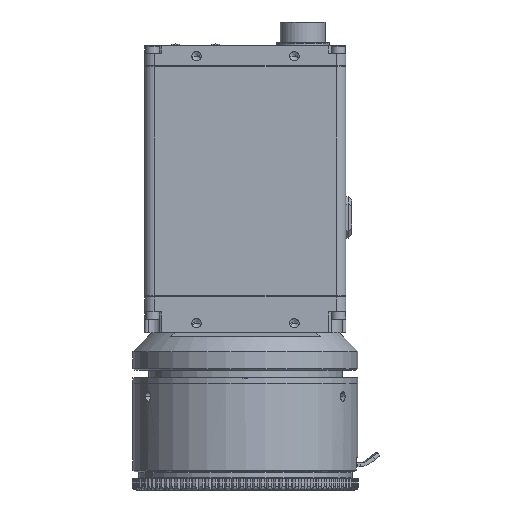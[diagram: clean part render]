
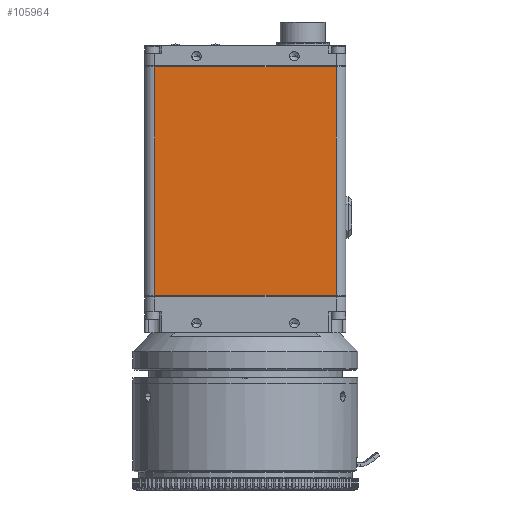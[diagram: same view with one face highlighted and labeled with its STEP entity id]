
A CAD part, front view. The second image highlights one B-rep face of the part: STEP entity #105964.
In plain terms, the highlighted planar face has unit normal (0, -1, 0) as drawn and (0, 1, 0) by its records, which use the part's own axes.
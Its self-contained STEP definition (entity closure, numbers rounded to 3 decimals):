
#4899 = LINE ( 'NONE', #33818, #129883 ) ;
#9814 = VERTEX_POINT ( 'NONE', #122484 ) ;
#9914 = ORIENTED_EDGE ( 'NONE', *, *, #55164, .F. ) ;
#19486 = LINE ( 'NONE', #111966, #146722 ) ;
#23652 = VECTOR ( 'NONE', #86618, 1000. ) ;
#29868 = AXIS2_PLACEMENT_3D ( 'NONE', #49028, #48681, #48652 ) ;
#33557 = DIRECTION ( 'NONE',  ( 0., 0., -1. ) ) ;
#33818 = CARTESIAN_POINT ( 'NONE',  ( -26.67, 16.51, 0.254 ) ) ;
#35845 = CARTESIAN_POINT ( 'NONE',  ( -24.13, 16.51, 61.214 ) ) ;
#46814 = VERTEX_POINT ( 'NONE', #146235 ) ;
#48652 = DIRECTION ( 'NONE',  ( 1., 0., 0. ) ) ;
#48681 = DIRECTION ( 'NONE',  ( 0., -1., 0. ) ) ;
#49028 = CARTESIAN_POINT ( 'NONE',  ( -26.67, 16.51, 61.214 ) ) ;
#49208 = PLANE ( 'NONE',  #29868 ) ;
#53884 = EDGE_CURVE ( 'NONE', #127679, #46814, #56259, .T. ) ;
#55164 = EDGE_CURVE ( 'NONE', #9814, #127679, #19486, .T. ) ;
#56259 = LINE ( 'NONE', #87457, #23652 ) ;
#75818 = ORIENTED_EDGE ( 'NONE', *, *, #129200, .F. ) ;
#82332 = DIRECTION ( 'NONE',  ( 1., 0., 0. ) ) ;
#82381 = FACE_OUTER_BOUND ( 'NONE', #121702, .T. ) ;
#86618 = DIRECTION ( 'NONE',  ( -1., 0., 0. ) ) ;
#87457 = CARTESIAN_POINT ( 'NONE',  ( -26.67, 16.51, 60.96 ) ) ;
#90230 = LINE ( 'NONE', #35845, #151849 ) ;
#95326 = EDGE_CURVE ( 'NONE', #46814, #100196, #90230, .T. ) ;
#100196 = VERTEX_POINT ( 'NONE', #102519 ) ;
#102519 = CARTESIAN_POINT ( 'NONE',  ( -24.13, 16.51, 0.254 ) ) ;
#105964 = ADVANCED_FACE ( 'NONE', ( #82381 ), #49208, .F. ) ;
#111821 = DIRECTION ( 'NONE',  ( 0., 0., 1. ) ) ;
#111966 = CARTESIAN_POINT ( 'NONE',  ( 24.13, 16.51, 61.214 ) ) ;
#114954 = ORIENTED_EDGE ( 'NONE', *, *, #95326, .F. ) ;
#121702 = EDGE_LOOP ( 'NONE', ( #75818, #114954, #143597, #9914 ) ) ;
#122484 = CARTESIAN_POINT ( 'NONE',  ( 24.13, 16.51, 0.254 ) ) ;
#127679 = VERTEX_POINT ( 'NONE', #145334 ) ;
#129200 = EDGE_CURVE ( 'NONE', #100196, #9814, #4899, .T. ) ;
#129883 = VECTOR ( 'NONE', #82332, 1000. ) ;
#143597 = ORIENTED_EDGE ( 'NONE', *, *, #53884, .F. ) ;
#145334 = CARTESIAN_POINT ( 'NONE',  ( 24.13, 16.51, 60.96 ) ) ;
#146235 = CARTESIAN_POINT ( 'NONE',  ( -24.13, 16.51, 60.96 ) ) ;
#146722 = VECTOR ( 'NONE', #111821, 1000. ) ;
#151849 = VECTOR ( 'NONE', #33557, 1000. ) ;
